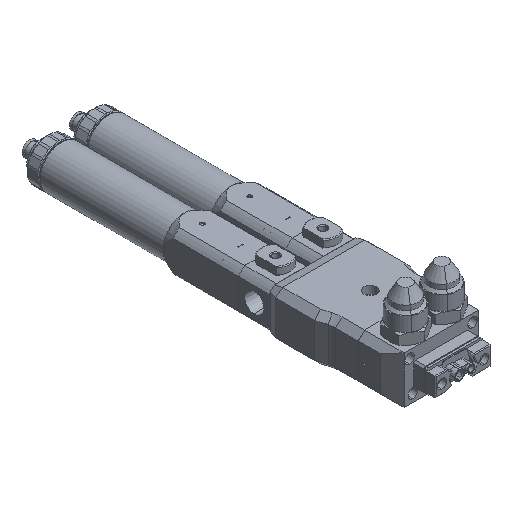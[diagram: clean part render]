
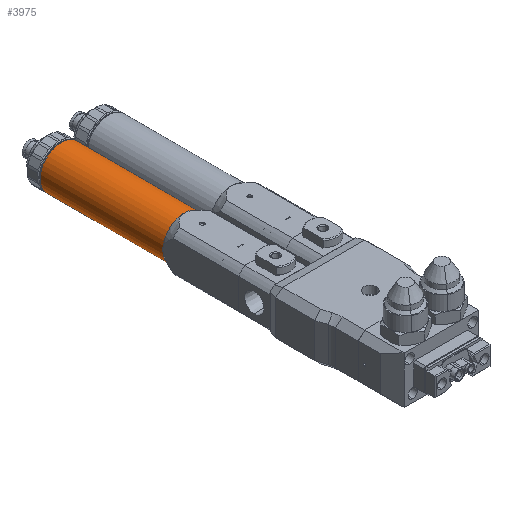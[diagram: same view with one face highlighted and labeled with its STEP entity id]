
A CAD part, isometric view. The second image highlights one B-rep face of the part: STEP entity #3975.
In plain terms, the highlighted cylindrical face has radius 13.5 mm (diameter 27 mm), a full revolution.
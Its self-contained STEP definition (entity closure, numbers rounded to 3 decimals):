
#3559 = VERTEX_POINT ( 'NONE', #26127 ) ;
#3614 = CARTESIAN_POINT ( 'NONE',  ( -34.924, 128.225, 16.505 ) ) ;
#3642 = ORIENTED_EDGE ( 'NONE', *, *, #10331, .T. ) ;
#3975 = ADVANCED_FACE ( 'NONE', ( #16452, #24642 ), #39067, .T. ) ;
#4315 = AXIS2_PLACEMENT_3D ( 'NONE', #49705, #54220, #17748 ) ;
#6452 = EDGE_CURVE ( 'NONE', #6698, #39601, #11833, .T. ) ;
#6698 = VERTEX_POINT ( 'NONE', #50906 ) ;
#8182 = EDGE_CURVE ( 'NONE', #3559, #3559, #20619, .T. ) ;
#10331 = EDGE_CURVE ( 'NONE', #39601, #6698, #11027, .T. ) ;
#11027 = CIRCLE ( 'NONE', #4315, 13.5 ) ;
#11833 = CIRCLE ( 'NONE', #38756, 13.5 ) ;
#12341 = DIRECTION ( 'NONE',  ( 0., -1., 0. ) ) ;
#15739 = ORIENTED_EDGE ( 'NONE', *, *, #6452, .T. ) ;
#16452 = FACE_OUTER_BOUND ( 'NONE', #34927, .T. ) ;
#17748 = DIRECTION ( 'NONE',  ( 1., 0., 0. ) ) ;
#20619 = CIRCLE ( 'NONE', #37934, 13.5 ) ;
#21696 = DIRECTION ( 'NONE',  ( 1., 0., 0. ) ) ;
#22100 = CARTESIAN_POINT ( 'NONE',  ( -48.424, 128.225, 16.505 ) ) ;
#24642 = FACE_OUTER_BOUND ( 'NONE', #45959, .T. ) ;
#25497 = DIRECTION ( 'NONE',  ( 1., 0., 0. ) ) ;
#26127 = CARTESIAN_POINT ( 'NONE',  ( -21.424, 50.425, 16.505 ) ) ;
#29741 = AXIS2_PLACEMENT_3D ( 'NONE', #30304, #58077, #25497 ) ;
#30024 = DIRECTION ( 'NONE',  ( 0., 1., 0. ) ) ;
#30304 = CARTESIAN_POINT ( 'NONE',  ( -34.924, 47.344, 16.505 ) ) ;
#30326 = DIRECTION ( 'NONE',  ( 1., 0., 0. ) ) ;
#34927 = EDGE_LOOP ( 'NONE', ( #48081 ) ) ;
#37934 = AXIS2_PLACEMENT_3D ( 'NONE', #48130, #30024, #30326 ) ;
#38756 = AXIS2_PLACEMENT_3D ( 'NONE', #3614, #12341, #21696 ) ;
#39067 = CYLINDRICAL_SURFACE ( 'NONE', #29741, 13.5 ) ;
#39601 = VERTEX_POINT ( 'NONE', #22100 ) ;
#45959 = EDGE_LOOP ( 'NONE', ( #15739, #3642 ) ) ;
#48081 = ORIENTED_EDGE ( 'NONE', *, *, #8182, .T. ) ;
#48130 = CARTESIAN_POINT ( 'NONE',  ( -34.924, 50.425, 16.505 ) ) ;
#49705 = CARTESIAN_POINT ( 'NONE',  ( -34.924, 128.225, 16.505 ) ) ;
#50906 = CARTESIAN_POINT ( 'NONE',  ( -21.424, 128.225, 16.505 ) ) ;
#54220 = DIRECTION ( 'NONE',  ( 0., -1., 0. ) ) ;
#58077 = DIRECTION ( 'NONE',  ( 0., -1., 0. ) ) ;
